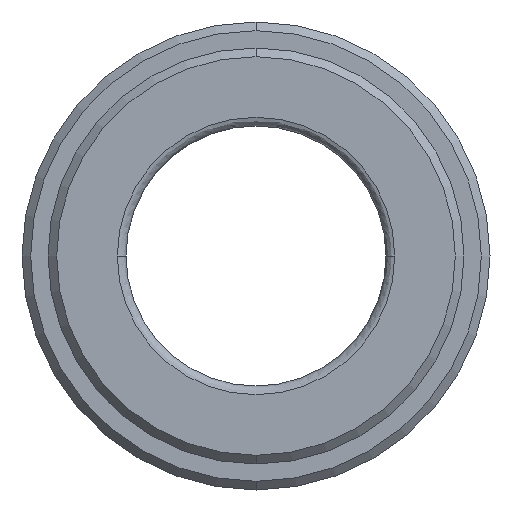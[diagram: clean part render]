
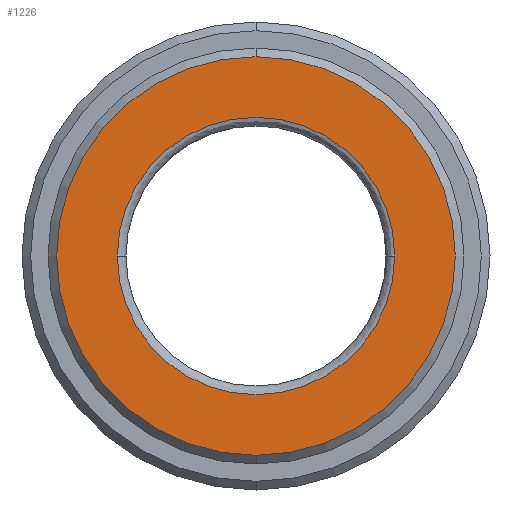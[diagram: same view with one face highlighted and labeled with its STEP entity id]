
A CAD part, front view. The second image highlights one B-rep face of the part: STEP entity #1226.
In plain terms, the highlighted planar face has unit normal (0, -1, 0).
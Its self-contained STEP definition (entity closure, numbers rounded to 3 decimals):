
#10 = CARTESIAN_POINT ( 'NONE',  ( 23., 0., 0. ) ) ;
#34 = DIRECTION ( 'NONE',  ( 0., 0., 1. ) ) ;
#43 = DIRECTION ( 'NONE',  ( 0., 1., 0. ) ) ;
#201 = DIRECTION ( 'NONE',  ( 0., 0., 1. ) ) ;
#204 = FACE_BOUND ( 'NONE', #706, .T. ) ;
#235 = CARTESIAN_POINT ( 'NONE',  ( 0., 0., 0. ) ) ;
#293 = DIRECTION ( 'NONE',  ( 0., -1., 0. ) ) ;
#311 = CARTESIAN_POINT ( 'NONE',  ( 0., 0., 0. ) ) ;
#314 = DIRECTION ( 'NONE',  ( 0., 0., -1. ) ) ;
#328 = FACE_OUTER_BOUND ( 'NONE', #592, .T. ) ;
#415 = DIRECTION ( 'NONE',  ( 0., 1., 0. ) ) ;
#451 = PLANE ( 'NONE',  #1171 ) ;
#516 = VERTEX_POINT ( 'NONE', #1034 ) ;
#561 = VERTEX_POINT ( 'NONE', #859 ) ;
#592 = EDGE_LOOP ( 'NONE', ( #657, #669 ) ) ;
#657 = ORIENTED_EDGE ( 'NONE', *, *, #1021, .F. ) ;
#669 = ORIENTED_EDGE ( 'NONE', *, *, #1123, .F. ) ;
#699 = ORIENTED_EDGE ( 'NONE', *, *, #1126, .T. ) ;
#706 = EDGE_LOOP ( 'NONE', ( #747, #699 ) ) ;
#747 = ORIENTED_EDGE ( 'NONE', *, *, #899, .T. ) ;
#758 = VERTEX_POINT ( 'NONE', #849 ) ;
#788 = VERTEX_POINT ( 'NONE', #806 ) ;
#796 = DIRECTION ( 'NONE',  ( 0., 1., 0. ) ) ;
#806 = CARTESIAN_POINT ( 'NONE',  ( 0., 0., 23. ) ) ;
#849 = CARTESIAN_POINT ( 'NONE',  ( 16., 0., 0. ) ) ;
#855 = DIRECTION ( 'NONE',  ( 0., 1., 0. ) ) ;
#859 = CARTESIAN_POINT ( 'NONE',  ( -16., 0., 0. ) ) ;
#865 = DIRECTION ( 'NONE',  ( 0., 0., 1. ) ) ;
#890 = CIRCLE ( 'NONE', #929, 16. ) ;
#899 = EDGE_CURVE ( 'NONE', #758, #561, #890, .T. ) ;
#929 = AXIS2_PLACEMENT_3D ( 'NONE', #957, #855, #940 ) ;
#940 = DIRECTION ( 'NONE',  ( 0., 0., 1. ) ) ;
#957 = CARTESIAN_POINT ( 'NONE',  ( 0., 0., 0. ) ) ;
#976 = CARTESIAN_POINT ( 'NONE',  ( 0., 0., 0. ) ) ;
#1021 = EDGE_CURVE ( 'NONE', #788, #516, #1125, .T. ) ;
#1034 = CARTESIAN_POINT ( 'NONE',  ( 0., 0., -23. ) ) ;
#1090 = AXIS2_PLACEMENT_3D ( 'NONE', #976, #796, #865 ) ;
#1123 = EDGE_CURVE ( 'NONE', #516, #788, #1295, .T. ) ;
#1125 = CIRCLE ( 'NONE', #1090, 23. ) ;
#1126 = EDGE_CURVE ( 'NONE', #561, #758, #1321, .T. ) ;
#1171 = AXIS2_PLACEMENT_3D ( 'NONE', #10, #293, #314 ) ;
#1226 = ADVANCED_FACE ( 'NONE', ( #204, #328 ), #451, .T. ) ;
#1276 = AXIS2_PLACEMENT_3D ( 'NONE', #311, #43, #34 ) ;
#1295 = CIRCLE ( 'NONE', #1276, 23. ) ;
#1321 = CIRCLE ( 'NONE', #1347, 16. ) ;
#1347 = AXIS2_PLACEMENT_3D ( 'NONE', #235, #415, #201 ) ;
